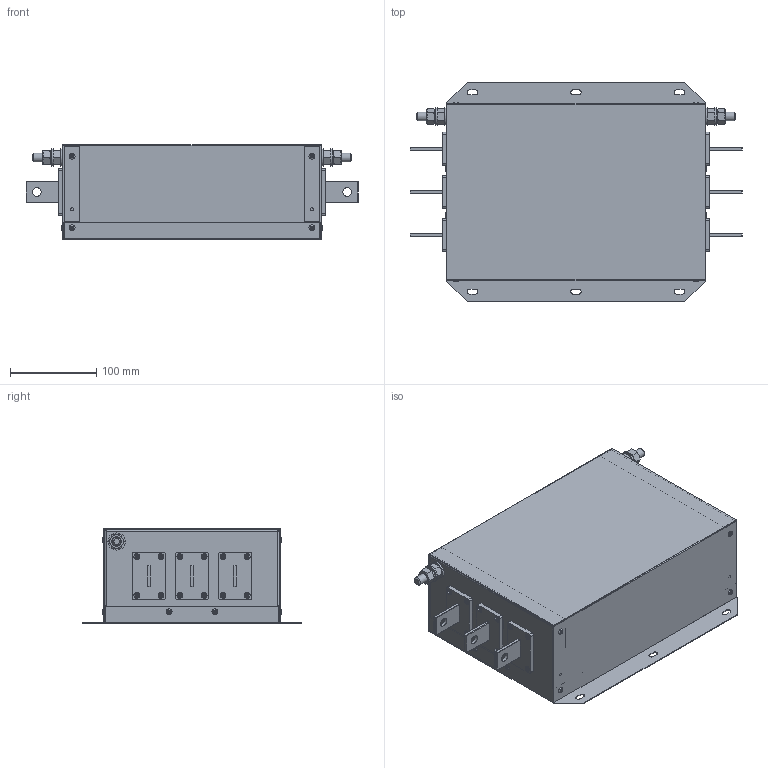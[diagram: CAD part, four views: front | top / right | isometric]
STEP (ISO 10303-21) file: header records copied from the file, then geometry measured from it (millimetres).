
FILE_DESCRIPTION(('STEP AP203'), '1');
FILE_NAME('ÝÌÑ ôèëüòð - IEF-132_256-4', '', ('UNSPECIFIED'), ('UNSPECIFIED'), 'C3D Converter', 'C3D Toolkit', '');
FILE_SCHEMA(('CONFIG_CONTROL_DESIGN'));
Length unit declared in the file: millimetre
Products named in the file (21): IEF-132_256-4; DIN 125 (A); DIN 127 (A); DIN 934; DIN 976; DIN 7337
Assembly tree (78 placements, depth 4):
  IEF-132_256-4
    IEF-132_256-4
    DIN 125 (A)  x4
      (unnamed)
    DIN 127 (A)  x2
      (unnamed)
    DIN 934  x4
      (unnamed)
    DIN 976  x2
      (unnamed)
    DIN 7337  x12
      (unnamed)
    IEF-132_256-4
      IEF-132_256-4
      IEF-132_256-4  x6
      DIN 7337  x12
        (unnamed)
      IEF-132_256-4  x3
    IEF-132_256-4
      IEF-132_256-4
      IEF-132_256-4  x6
      IEF-132_256-4  x3
      DIN 7337  x12
        (unnamed)
    IEF-132_256-4
Bounding box: 385 x 255 x 110 mm (x, y, z)
Volume: 434701.1 mm3; surface area: 657419.9 mm2
Topology: 70 solids, 70 shells, 1102 faces, 2306 edges, 1440 vertices
Faces by surface type: plane 548, cylinder 382, torus 72, cone 60, sphere 24, bspline 16
Full cylindrical faces by diameter (mm): 2.1 x36, 3.2 x36, 3.5 x100, 6.8 x48, 8.376 x4, 10 x10, 10.5 x4, 20 x4
Entity records: 14474 total; most frequent: CARTESIAN_POINT 3406, DIRECTION 1786, ORIENTED_EDGE 1512, EDGE_CURVE 756, AXIS2_PLACEMENT_3D 666, EDGE_LOOP 592, VERTEX_POINT 510, LINE 454
